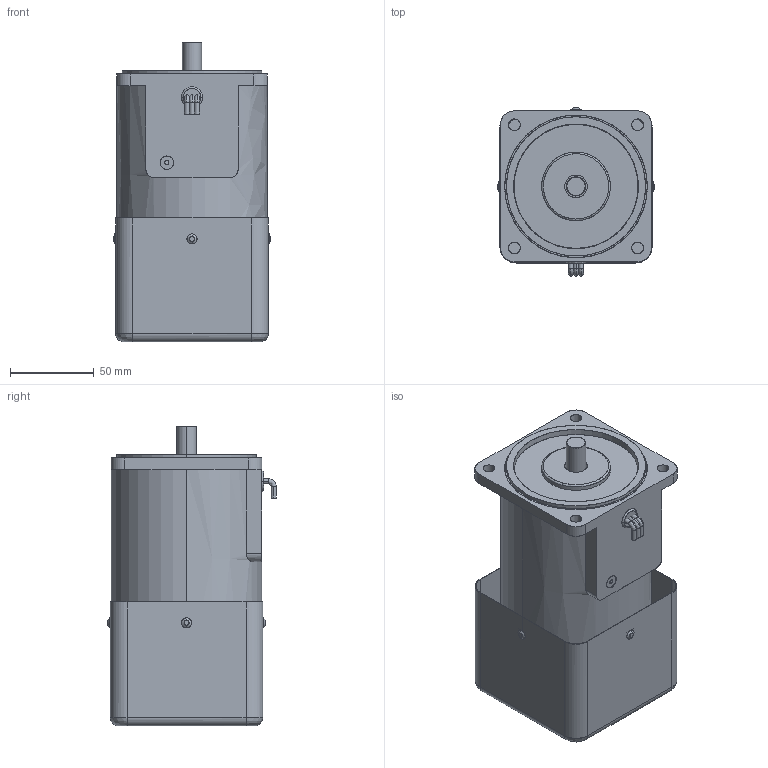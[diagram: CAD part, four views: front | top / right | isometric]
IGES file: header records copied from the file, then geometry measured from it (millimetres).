
Start section: SolidWorks IGES file using analytic representation for surfaces
Global section: file name: \\楷备家烹钦辑滚\data (D)\档搁 枚\权其捞瘤 档搁\6. TORQUE\90\30W\(6-29) 9TDG∴-30F2P.IGS; native system: SolidWorks 2007; preprocessor: SolidWorks 2007; author: user; date: 150623.133024; units: millimetre
Bounding box: 94 x 100.5 x 179 mm (x, y, z)
Surface area: 166979.6 mm2 (no closed solid volume)
Topology: 0 solids, 0 shells, 362 faces, 6435 edges, 6435 vertices
Faces by surface type: revolution 232, bspline 130
